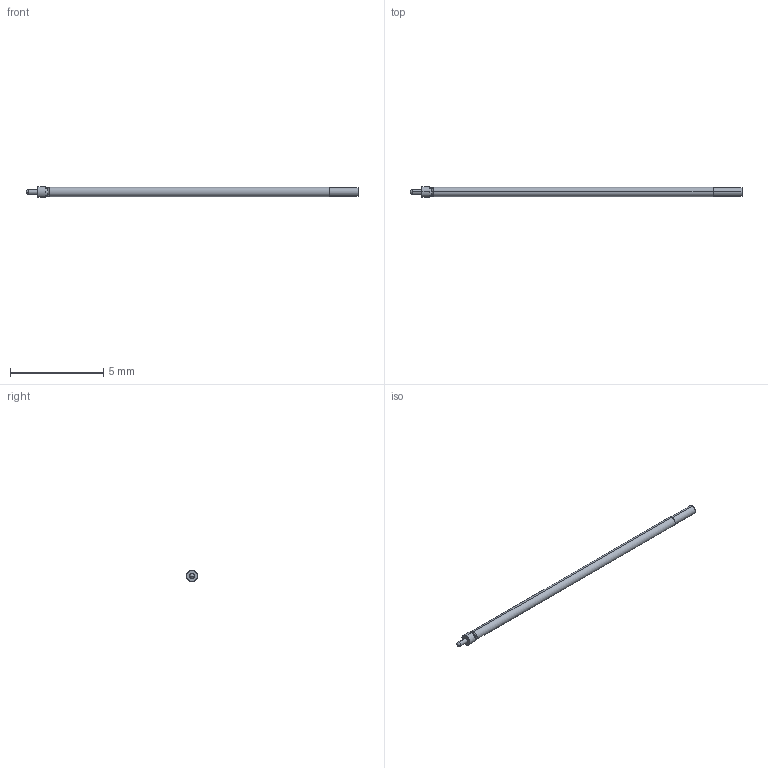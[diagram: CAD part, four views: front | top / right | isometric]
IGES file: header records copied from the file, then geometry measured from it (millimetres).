
Start section: SolidWorks IGES file using analytic representation for surfaces
Global section: file name: Z:\probe solid model mockups\Solidworks models\MEP-20 IGS files\MEP-20J RECD.IGS; native system: SolidWorks 2006 by SolidWorks Corporation; preprocessor: SolidWorks 2006 by SolidWorks Corporation; author: tsakatani; date: 071219.112755; units: inch
Bounding box: 17.78 x 0.58 x 0.58 mm (x, y, z)
Surface area: 28.2 mm2 (no closed solid volume)
Topology: 0 solids, 0 shells, 20 faces, 124 edges, 122 vertices
Faces by surface type: revolution 14, bspline 6
